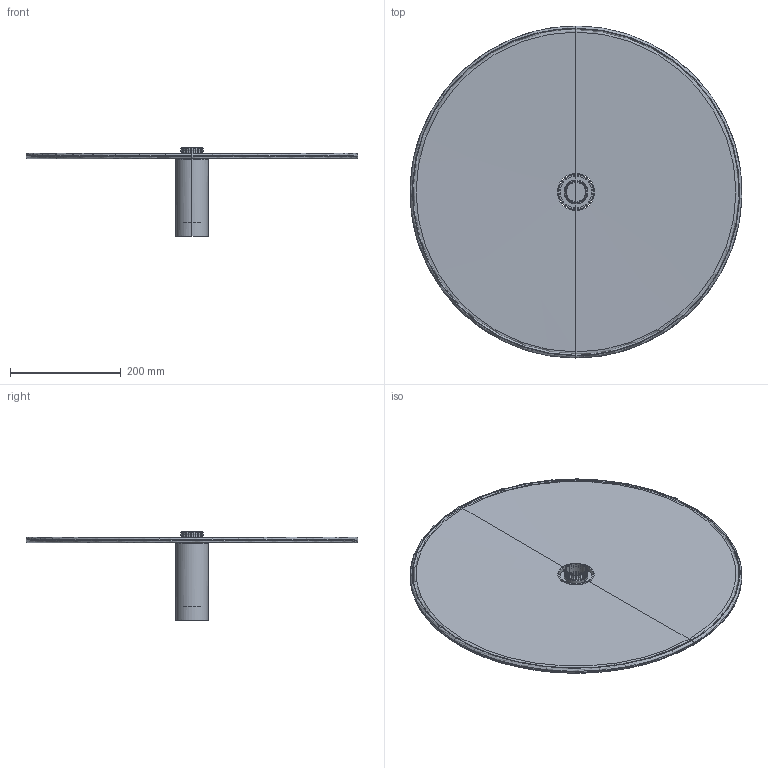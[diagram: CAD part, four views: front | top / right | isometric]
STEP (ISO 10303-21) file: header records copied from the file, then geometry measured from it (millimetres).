
FILE_DESCRIPTION(/* description */ (''),/* implementation_level */ '2;1');
FILE_NAME(/* name */ '62174-69_3d.step',/* time_stamp */ '2024-04-04T09:49:14+02:00',/* author */ ('RenataManzini'),/* organization */ (''),/* preprocessor_version */ 'ST-DEVELOPER v20',/* originating_system */ 'AutoCAD Mechanical',/* authorisation */ '');
FILE_SCHEMA (('AUTOMOTIVE_DESIGN { 1 0 10303 214 3 1 1 }'));
Length unit declared in the file: millimetre
Products named in the file (3): Product; Pieza_62173_62174 - LAMP-425732-_3D_; COSTAS_Shade_69_78 - Shade-425733-_3D_
Assembly tree (2 placements, depth 2):
  Product
    Pieza_62173_62174 - LAMP-425732-_3D_
    COSTAS_Shade_69_78 - Shade-425733-_3D_
Bounding box: 599.66 x 600 x 160 mm (x, y, z)
Volume: 2697273.4 mm3; surface area: 686400.6 mm2
Topology: 5 solids, 5 shells, 106 faces, 244 edges, 138 vertices
Faces by surface type: cylinder 46, plane 32, torus 24, cone 4
Entity records: 4324 total; most frequent: CARTESIAN_POINT 1901, DIRECTION 500, ORIENTED_EDGE 488, EDGE_CURVE 244, AXIS2_PLACEMENT_3D 209, VERTEX_POINT 138, EDGE_LOOP 110, FACE_OUTER_BOUND 106
